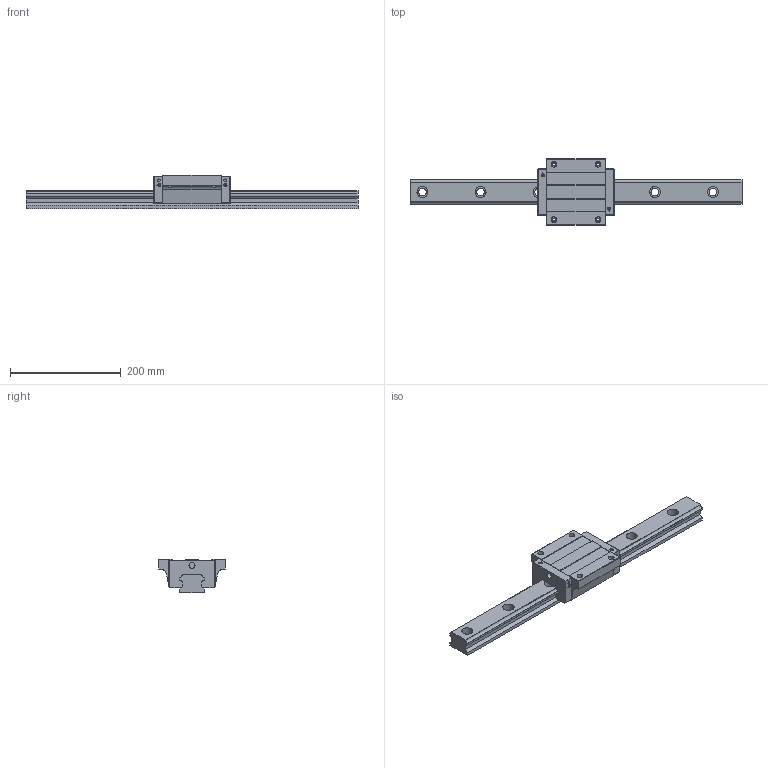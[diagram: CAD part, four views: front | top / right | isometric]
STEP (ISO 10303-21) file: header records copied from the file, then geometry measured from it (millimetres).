
FILE_DESCRIPTION (( 'STEP AP203' ), '1' );
FILE_NAME ('TRH45FL-XNC.STEP', '2026-02-12T07:29:22', ( '' ), ( '' ), 'SwSTEP 2.0', 'SolidWorks 2022', '' );
FILE_SCHEMA (( 'CONFIG_CONTROL_DESIGN' ));
Length unit declared in the file: millimetre
Products named in the file (1): TRH45FL-XNC
Bounding box: 600 x 120 x 60 mm (x, y, z)
Volume: 1230468.2 mm3; surface area: 164249.3 mm2
Topology: 1 solids, 1 shells, 379 faces, 1020 edges, 670 vertices
Faces by surface type: plane 227, cylinder 100, bspline 48, sphere 4
Entity records: 15027 total; most frequent: CARTESIAN_POINT 5592, ORIENTED_EDGE 2032, DIRECTION 1762, EDGE_CURVE 1016, VECTOR 718, LINE 718, VERTEX_POINT 670, AXIS2_PLACEMENT_3D 522
